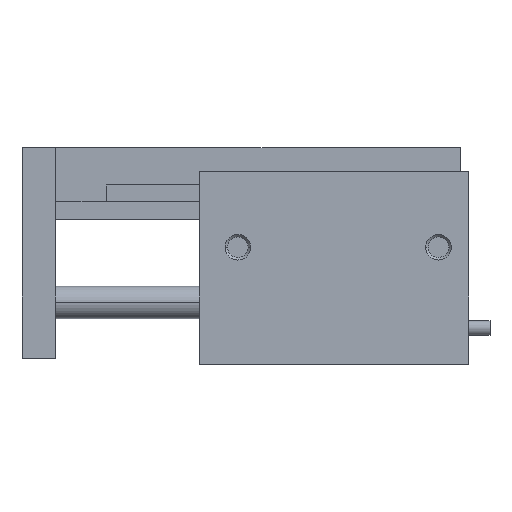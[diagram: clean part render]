
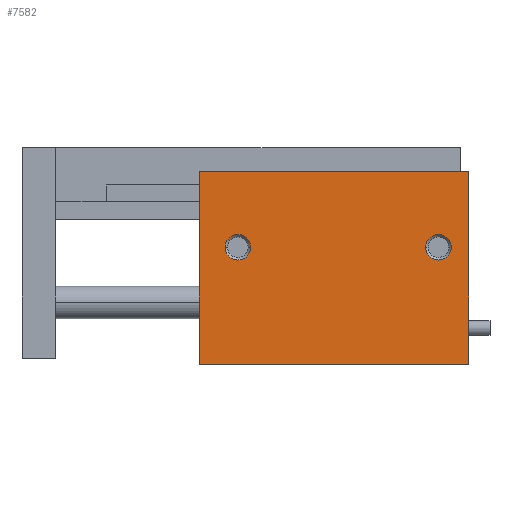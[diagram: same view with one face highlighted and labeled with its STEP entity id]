
A CAD part, top view. The second image highlights one B-rep face of the part: STEP entity #7582.
In plain terms, the highlighted planar face has unit normal (0, 0, 1) as drawn and (0, 0, -1) by its records, which use the part's own axes.
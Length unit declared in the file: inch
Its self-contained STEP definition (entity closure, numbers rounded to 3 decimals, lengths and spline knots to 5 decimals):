
#18 = DIRECTION ( 'NONE',  ( 0., 0., 1. ) ) ;
#270 = EDGE_CURVE ( 'NONE', #7747, #7939, #3189, .T. ) ;
#357 = CARTESIAN_POINT ( 'NONE',  ( 2., -0.715, -0.531 ) ) ;
#514 = CARTESIAN_POINT ( 'NONE',  ( 0., -0.715, -0.531 ) ) ;
#667 = CARTESIAN_POINT ( 'NONE',  ( 2., 0.715, -0.531 ) ) ;
#751 = CARTESIAN_POINT ( 'NONE',  ( 1.8075, 0.153, -0.531 ) ) ;
#786 = FACE_BOUND ( 'NONE', #8826, .T. ) ;
#826 = ORIENTED_EDGE ( 'NONE', *, *, #1414, .T. ) ;
#830 = DIRECTION ( 'NONE',  ( 0., 1., 0. ) ) ;
#843 = EDGE_LOOP ( 'NONE', ( #8705, #2767, #4512, #3151 ) ) ;
#1023 = VERTEX_POINT ( 'NONE', #4740 ) ;
#1248 = CARTESIAN_POINT ( 'NONE',  ( 2., 0.715, -0.531 ) ) ;
#1350 = LINE ( 'NONE', #7151, #8364 ) ;
#1377 = CARTESIAN_POINT ( 'NONE',  ( 0.32, 0.153, -0.531 ) ) ;
#1414 = EDGE_CURVE ( 'NONE', #3131, #7387, #4870, .T. ) ;
#1548 = CARTESIAN_POINT ( 'NONE',  ( 1.7125, 0.153, -0.531 ) ) ;
#2047 = EDGE_CURVE ( 'NONE', #7387, #3131, #7478, .T. ) ;
#2247 = CARTESIAN_POINT ( 'NONE',  ( 0., 0.715, -0.531 ) ) ;
#2250 = CARTESIAN_POINT ( 'NONE',  ( 0.225, 0.153, -0.531 ) ) ;
#2260 = DIRECTION ( 'NONE',  ( 1., 0., 0. ) ) ;
#2414 = EDGE_CURVE ( 'NONE', #5844, #1023, #1350, .T. ) ;
#2605 = CARTESIAN_POINT ( 'NONE',  ( 0.225, 0.153, -0.531 ) ) ;
#2767 = ORIENTED_EDGE ( 'NONE', *, *, #4685, .F. ) ;
#2878 = FACE_OUTER_BOUND ( 'NONE', #843, .T. ) ;
#2958 = DIRECTION ( 'NONE',  ( 1., 0., 0. ) ) ;
#2985 = VECTOR ( 'NONE', #5564, 39.37008 ) ;
#3127 = AXIS2_PLACEMENT_3D ( 'NONE', #1548, #6438, #2260 ) ;
#3131 = VERTEX_POINT ( 'NONE', #751 ) ;
#3151 = ORIENTED_EDGE ( 'NONE', *, *, #2414, .T. ) ;
#3158 = LINE ( 'NONE', #5727, #8055 ) ;
#3181 = DIRECTION ( 'NONE',  ( 0., 0., 1. ) ) ;
#3189 = CIRCLE ( 'NONE', #6788, 0.095 ) ;
#3320 = DIRECTION ( 'NONE',  ( 1., 0., 0. ) ) ;
#3519 = VECTOR ( 'NONE', #8212, 39.37008 ) ;
#3755 = EDGE_CURVE ( 'NONE', #5844, #5841, #3158, .T. ) ;
#4066 = CARTESIAN_POINT ( 'NONE',  ( 0.13, 0.153, -0.531 ) ) ;
#4216 = CARTESIAN_POINT ( 'NONE',  ( 1.7125, 0.153, -0.531 ) ) ;
#4283 = EDGE_LOOP ( 'NONE', ( #6057, #826 ) ) ;
#4512 = ORIENTED_EDGE ( 'NONE', *, *, #3755, .F. ) ;
#4595 = LINE ( 'NONE', #667, #2985 ) ;
#4685 = EDGE_CURVE ( 'NONE', #5841, #5547, #4595, .T. ) ;
#4740 = CARTESIAN_POINT ( 'NONE',  ( 0., -0.715, -0.531 ) ) ;
#4870 = CIRCLE ( 'NONE', #3127, 0.095 ) ;
#4906 = DIRECTION ( 'NONE',  ( 1., 0., 0. ) ) ;
#5537 = AXIS2_PLACEMENT_3D ( 'NONE', #357, #3181, #8059 ) ;
#5547 = VERTEX_POINT ( 'NONE', #2247 ) ;
#5564 = DIRECTION ( 'NONE',  ( -1., 0., 0. ) ) ;
#5657 = ORIENTED_EDGE ( 'NONE', *, *, #270, .T. ) ;
#5702 = CIRCLE ( 'NONE', #7462, 0.095 ) ;
#5727 = CARTESIAN_POINT ( 'NONE',  ( 2., -0.715, -0.531 ) ) ;
#5824 = EDGE_CURVE ( 'NONE', #1023, #5547, #7213, .T. ) ;
#5841 = VERTEX_POINT ( 'NONE', #1248 ) ;
#5844 = VERTEX_POINT ( 'NONE', #6133 ) ;
#5955 = PLANE ( 'NONE',  #5537 ) ;
#6057 = ORIENTED_EDGE ( 'NONE', *, *, #2047, .T. ) ;
#6133 = CARTESIAN_POINT ( 'NONE',  ( 2., -0.715, -0.531 ) ) ;
#6438 = DIRECTION ( 'NONE',  ( 0., 0., 1. ) ) ;
#6439 = CARTESIAN_POINT ( 'NONE',  ( 1.6175, 0.153, -0.531 ) ) ;
#6577 = FACE_BOUND ( 'NONE', #4283, .T. ) ;
#6788 = AXIS2_PLACEMENT_3D ( 'NONE', #2605, #7503, #3320 ) ;
#7147 = DIRECTION ( 'NONE',  ( 0., 0., 1. ) ) ;
#7151 = CARTESIAN_POINT ( 'NONE',  ( 2., -0.715, -0.531 ) ) ;
#7213 = LINE ( 'NONE', #514, #3519 ) ;
#7387 = VERTEX_POINT ( 'NONE', #6439 ) ;
#7462 = AXIS2_PLACEMENT_3D ( 'NONE', #2250, #7147, #2958 ) ;
#7478 = CIRCLE ( 'NONE', #8859, 0.095 ) ;
#7503 = DIRECTION ( 'NONE',  ( 0., 0., 1. ) ) ;
#7582 = ADVANCED_FACE ( 'NONE', ( #786, #2878, #6577 ), #5955, .F. ) ;
#7747 = VERTEX_POINT ( 'NONE', #4066 ) ;
#7939 = VERTEX_POINT ( 'NONE', #1377 ) ;
#8055 = VECTOR ( 'NONE', #830, 39.37008 ) ;
#8059 = DIRECTION ( 'NONE',  ( 1., 0., 0. ) ) ;
#8212 = DIRECTION ( 'NONE',  ( 0., 1., 0. ) ) ;
#8226 = ORIENTED_EDGE ( 'NONE', *, *, #8946, .T. ) ;
#8364 = VECTOR ( 'NONE', #8562, 39.37008 ) ;
#8562 = DIRECTION ( 'NONE',  ( -1., 0., 0. ) ) ;
#8705 = ORIENTED_EDGE ( 'NONE', *, *, #5824, .T. ) ;
#8826 = EDGE_LOOP ( 'NONE', ( #5657, #8226 ) ) ;
#8859 = AXIS2_PLACEMENT_3D ( 'NONE', #4216, #18, #4906 ) ;
#8946 = EDGE_CURVE ( 'NONE', #7939, #7747, #5702, .T. ) ;
